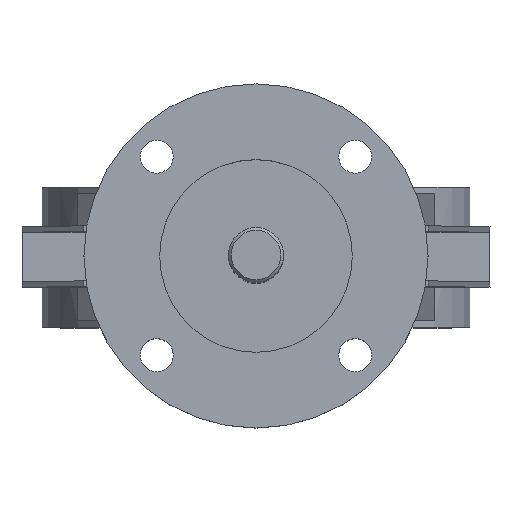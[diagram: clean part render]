
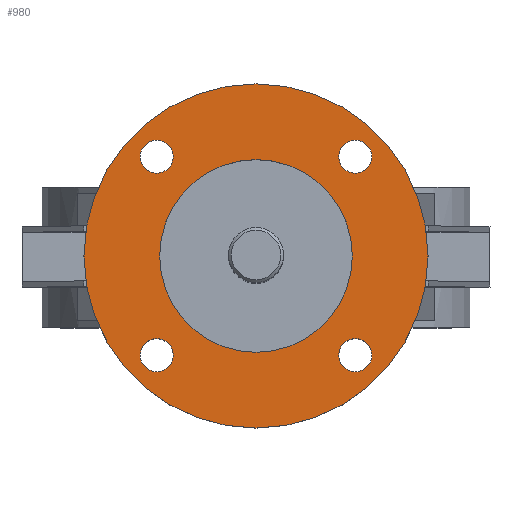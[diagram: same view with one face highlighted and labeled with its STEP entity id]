
A CAD part, top view. The second image highlights one B-rep face of the part: STEP entity #980.
In plain terms, the highlighted planar face has unit normal (0, 0, 1).
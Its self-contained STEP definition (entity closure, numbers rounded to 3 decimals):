
#980=ADVANCED_FACE('',(#2231,#2233,#2235,#2237,#2239,#2241),#2243,.T.);
#2231=FACE_BOUND('',#2232,.T.);
#2232=EDGE_LOOP('',(#3267));
#2233=FACE_BOUND('',#2234,.T.);
#2234=EDGE_LOOP('',(#3268));
#2235=FACE_BOUND('',#2236,.T.);
#2236=EDGE_LOOP('',(#3269));
#2237=FACE_BOUND('',#2238,.T.);
#2238=EDGE_LOOP('',(#3270));
#2239=FACE_BOUND('',#2240,.T.);
#2240=EDGE_LOOP('',(#3271));
#2241=FACE_BOUND('',#2242,.T.);
#2242=EDGE_LOOP('',(#3272));
#2243=PLANE('',#2244);
#2244=AXIS2_PLACEMENT_3D('',#2245,#2246,#2247);
#2245=CARTESIAN_POINT('',(0.,0.,351.));
#2246=DIRECTION('',(0.,0.,1.));
#2247=DIRECTION('',(-1.,0.,0.));
#3267=ORIENTED_EDGE('',*,*,#3683,.T.);
#3268=ORIENTED_EDGE('',*,*,#3684,.T.);
#3269=ORIENTED_EDGE('',*,*,#3685,.T.);
#3270=ORIENTED_EDGE('',*,*,#3686,.T.);
#3271=ORIENTED_EDGE('',*,*,#3807,.T.);
#3272=ORIENTED_EDGE('',*,*,#3687,.T.);
#3683=EDGE_CURVE('',#4259,#4259,#4260,.T.);
#3684=EDGE_CURVE('',#4261,#4261,#4262,.F.);
#3685=EDGE_CURVE('',#4263,#4263,#4264,.F.);
#3686=EDGE_CURVE('',#4265,#4265,#4266,.F.);
#3687=EDGE_CURVE('',#4267,#4267,#4268,.F.);
#3807=EDGE_CURVE('',#4474,#4474,#4475,.F.);
#4259=VERTEX_POINT('',#5477);
#4260=CIRCLE('',#5478,62.5);
#4261=VERTEX_POINT('',#5482);
#4262=CIRCLE('',#5483,6.);
#4263=VERTEX_POINT('',#5487);
#4264=CIRCLE('',#5488,6.);
#4265=VERTEX_POINT('',#5492);
#4266=CIRCLE('',#5493,6.);
#4267=VERTEX_POINT('',#5497);
#4268=CIRCLE('',#5498,6.);
#4474=VERTEX_POINT('',#6002);
#4475=CIRCLE('',#6003,35.);
#5477=CARTESIAN_POINT('',(-62.5,0.,351.));
#5478=AXIS2_PLACEMENT_3D('',#5479,#5480,#5481);
#5479=CARTESIAN_POINT('',(0.,0.,351.));
#5480=DIRECTION('',(0.,0.,1.));
#5481=DIRECTION('',(-1.,0.,0.));
#5482=CARTESIAN_POINT('',(-42.062,-36.062,351.));
#5483=AXIS2_PLACEMENT_3D('',#5484,#5485,#5486);
#5484=CARTESIAN_POINT('',(-36.062,-36.062,351.));
#5485=DIRECTION('',(0.,0.,1.));
#5486=DIRECTION('',(-1.,0.,0.));
#5487=CARTESIAN_POINT('',(36.062,-42.062,351.));
#5488=AXIS2_PLACEMENT_3D('',#5489,#5490,#5491);
#5489=CARTESIAN_POINT('',(36.062,-36.062,351.));
#5490=DIRECTION('',(0.,0.,1.));
#5491=DIRECTION('',(0.,-1.,0.));
#5492=CARTESIAN_POINT('',(42.062,36.062,351.));
#5493=AXIS2_PLACEMENT_3D('',#5494,#5495,#5496);
#5494=CARTESIAN_POINT('',(36.062,36.062,351.));
#5495=DIRECTION('',(0.,0.,1.));
#5496=DIRECTION('',(1.,0.,-0.));
#5497=CARTESIAN_POINT('',(-36.062,42.062,351.));
#5498=AXIS2_PLACEMENT_3D('',#5499,#5500,#5501);
#5499=CARTESIAN_POINT('',(-36.062,36.062,351.));
#5500=DIRECTION('',(0.,0.,1.));
#5501=DIRECTION('',(0.,1.,0.));
#6002=CARTESIAN_POINT('',(0.,35.,351.));
#6003=AXIS2_PLACEMENT_3D('',#6004,#6005,#6006);
#6004=CARTESIAN_POINT('',(0.,0.,351.));
#6005=DIRECTION('',(0.,0.,1.));
#6006=DIRECTION('',(0.,1.,0.));
